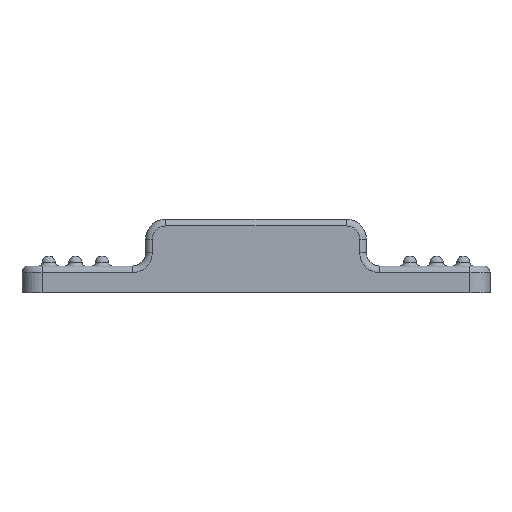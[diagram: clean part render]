
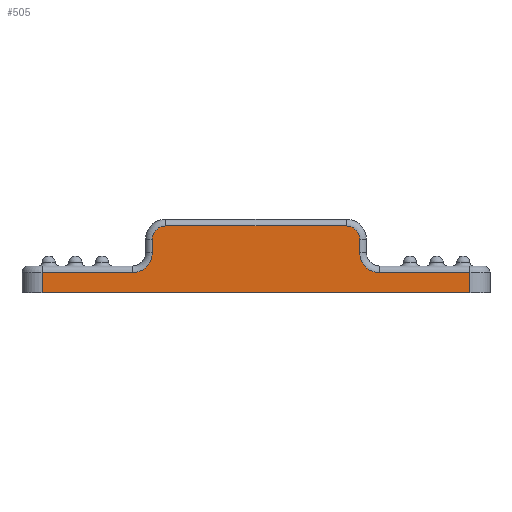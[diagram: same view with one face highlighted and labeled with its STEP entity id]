
A CAD part, front view. The second image highlights one B-rep face of the part: STEP entity #505.
In plain terms, the highlighted planar face has unit normal (0, -1, 0).
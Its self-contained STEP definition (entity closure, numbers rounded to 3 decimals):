
#342=FACE_OUTER_BOUND('',#700,.T.);
#505=ADVANCED_FACE('',(#342),#566,.F.);
#566=PLANE('',#2751);
#700=EDGE_LOOP('',(#1545,#1546,#1547,#1548,#1549,#1550,#1551,#1552,#1553,
#1554,#1555,#1556));
#821=LINE('',#4037,#955);
#866=LINE('',#4450,#1000);
#867=LINE('',#4452,#1001);
#868=LINE('',#4453,#1002);
#869=LINE('',#4455,#1003);
#870=LINE('',#4459,#1004);
#871=LINE('',#4463,#1005);
#872=LINE('',#4467,#1006);
#955=VECTOR('',#3096,1.);
#1000=VECTOR('',#3517,1.);
#1001=VECTOR('',#3518,1.);
#1002=VECTOR('',#3519,1.);
#1003=VECTOR('',#3520,1.);
#1004=VECTOR('',#3523,1.);
#1005=VECTOR('',#3526,1.);
#1006=VECTOR('',#3529,1.);
#1545=ORIENTED_EDGE('',*,*,#2210,.T.);
#1546=ORIENTED_EDGE('',*,*,#2211,.T.);
#1547=ORIENTED_EDGE('',*,*,#2212,.T.);
#1548=ORIENTED_EDGE('',*,*,#2063,.F.);
#1549=ORIENTED_EDGE('',*,*,#2213,.T.);
#1550=ORIENTED_EDGE('',*,*,#2214,.T.);
#1551=ORIENTED_EDGE('',*,*,#2215,.T.);
#1552=ORIENTED_EDGE('',*,*,#2216,.T.);
#1553=ORIENTED_EDGE('',*,*,#2217,.T.);
#1554=ORIENTED_EDGE('',*,*,#2218,.T.);
#1555=ORIENTED_EDGE('',*,*,#2219,.T.);
#1556=ORIENTED_EDGE('',*,*,#2220,.T.);
#1845=VERTEX_POINT('',#4038);
#1846=VERTEX_POINT('',#4039);
#1899=VERTEX_POINT('',#4448);
#1900=VERTEX_POINT('',#4449);
#1901=VERTEX_POINT('',#4451);
#1902=VERTEX_POINT('',#4454);
#1903=VERTEX_POINT('',#4456);
#1904=VERTEX_POINT('',#4458);
#1905=VERTEX_POINT('',#4460);
#1906=VERTEX_POINT('',#4462);
#1907=VERTEX_POINT('',#4464);
#1908=VERTEX_POINT('',#4466);
#2063=EDGE_CURVE('',#1845,#1846,#821,.T.);
#2210=EDGE_CURVE('',#1899,#1900,#2425,.T.);
#2211=EDGE_CURVE('',#1900,#1901,#866,.T.);
#2212=EDGE_CURVE('',#1901,#1846,#867,.T.);
#2213=EDGE_CURVE('',#1845,#1902,#868,.T.);
#2214=EDGE_CURVE('',#1902,#1903,#869,.T.);
#2215=EDGE_CURVE('',#1903,#1904,#2426,.T.);
#2216=EDGE_CURVE('',#1904,#1905,#870,.T.);
#2217=EDGE_CURVE('',#1905,#1906,#2427,.T.);
#2218=EDGE_CURVE('',#1906,#1907,#871,.T.);
#2219=EDGE_CURVE('',#1907,#1908,#2428,.T.);
#2220=EDGE_CURVE('',#1908,#1899,#872,.T.);
#2425=CIRCLE('',#2747,3.);
#2426=CIRCLE('',#2748,3.);
#2427=CIRCLE('',#2749,2.);
#2428=CIRCLE('',#2750,2.);
#2747=AXIS2_PLACEMENT_3D('',#4447,#3515,#3516);
#2748=AXIS2_PLACEMENT_3D('',#4457,#3521,#3522);
#2749=AXIS2_PLACEMENT_3D('',#4461,#3524,#3525);
#2750=AXIS2_PLACEMENT_3D('',#4465,#3527,#3528);
#2751=AXIS2_PLACEMENT_3D('',#4468,#3530,#3531);
#3096=DIRECTION('',(-1.,0.,0.));
#3515=DIRECTION('',(0.,1.,0.));
#3516=DIRECTION('',(0.,0.,1.));
#3517=DIRECTION('',(-1.,0.,0.));
#3518=DIRECTION('',(0.,0.,-1.));
#3519=DIRECTION('',(0.,0.,1.));
#3520=DIRECTION('',(-1.,0.,0.));
#3521=DIRECTION('',(0.,1.,0.));
#3522=DIRECTION('',(0.,0.,1.));
#3523=DIRECTION('',(0.,0.,1.));
#3524=DIRECTION('',(0.,-1.,0.));
#3525=DIRECTION('',(0.,0.,1.));
#3526=DIRECTION('',(-1.,0.,0.));
#3527=DIRECTION('',(0.,-1.,0.));
#3528=DIRECTION('',(0.,0.,1.));
#3529=DIRECTION('',(0.,0.,-1.));
#3530=DIRECTION('',(0.,1.,0.));
#3531=DIRECTION('',(0.,0.,1.));
#4037=CARTESIAN_POINT('',(-150.154,103.95,97.5));
#4038=CARTESIAN_POINT('',(321.55,103.95,97.5));
#4039=CARTESIAN_POINT('',(257.45,103.95,97.5));
#4447=CARTESIAN_POINT('',(270.958,103.95,103.5));
#4448=CARTESIAN_POINT('',(273.958,103.95,103.5));
#4449=CARTESIAN_POINT('',(270.958,103.95,100.5));
#4450=CARTESIAN_POINT('',(257.45,103.95,100.5));
#4451=CARTESIAN_POINT('',(257.45,103.95,100.5));
#4452=CARTESIAN_POINT('',(257.45,103.95,67.5));
#4453=CARTESIAN_POINT('',(321.55,103.95,67.5));
#4454=CARTESIAN_POINT('',(321.55,103.95,100.5));
#4455=CARTESIAN_POINT('',(308.042,103.95,100.5));
#4456=CARTESIAN_POINT('',(308.042,103.95,100.5));
#4457=CARTESIAN_POINT('',(308.042,103.95,103.5));
#4458=CARTESIAN_POINT('',(305.042,103.95,103.5));
#4459=CARTESIAN_POINT('',(305.042,103.95,67.5));
#4460=CARTESIAN_POINT('',(305.042,103.95,105.5));
#4461=CARTESIAN_POINT('',(303.042,103.95,105.5));
#4462=CARTESIAN_POINT('',(303.042,103.95,107.5));
#4463=CARTESIAN_POINT('',(275.958,103.95,107.5));
#4464=CARTESIAN_POINT('',(275.958,103.95,107.5));
#4465=CARTESIAN_POINT('',(275.958,103.95,105.5));
#4466=CARTESIAN_POINT('',(273.958,103.95,105.5));
#4467=CARTESIAN_POINT('',(273.958,103.95,67.5));
#4468=CARTESIAN_POINT('',(354.45,103.95,67.5));
